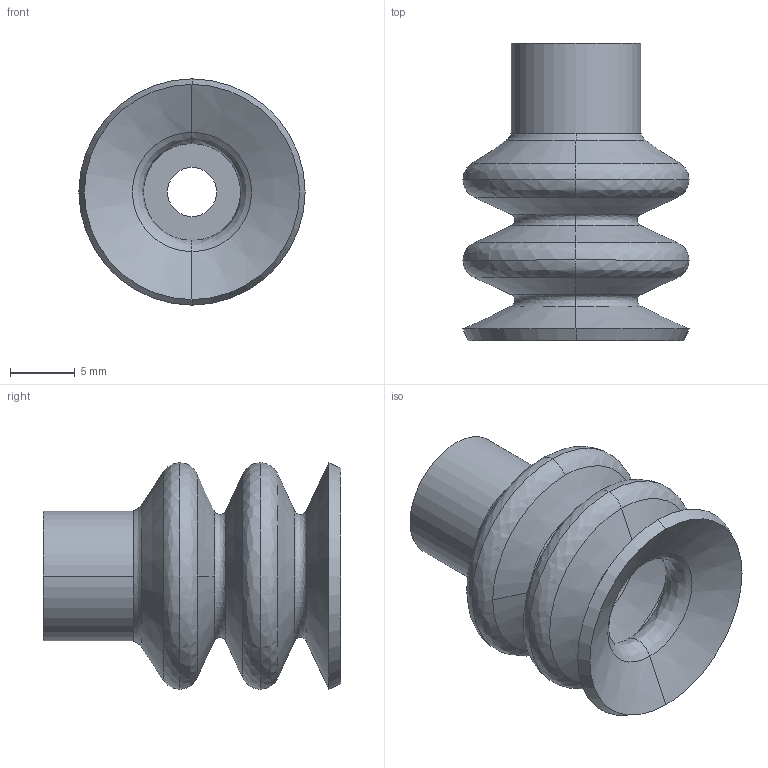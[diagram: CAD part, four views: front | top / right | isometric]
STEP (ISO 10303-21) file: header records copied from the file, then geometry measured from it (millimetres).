
FILE_DESCRIPTION (( 'STEP AP214' ), '1' );
FILE_NAME ('FG-18.STEP', '2023-03-07T06:41:39', ( 'Windows User' ), ( 'P R C' ), 'SwSTEP 2.0', 'SolidWorks 2019', '' );
FILE_SCHEMA (( 'AUTOMOTIVE_DESIGN' ));
Length unit declared in the file: millimetre
Products named in the file (1): FG-18
Bounding box: 17.5 x 23 x 17.5 mm (x, y, z)
Volume: 1674.5 mm3; surface area: 2559.5 mm2
Topology: 1 solids, 1 shells, 55 faces, 118 edges, 66 vertices
Faces by surface type: bspline 26, cone 22, cylinder 4, plane 3
Entity records: 1796 total; most frequent: CARTESIAN_POINT 714, ORIENTED_EDGE 236, DIRECTION 214, EDGE_CURVE 118, AXIS2_PLACEMENT_3D 94, VERTEX_POINT 66, CIRCLE 64, EDGE_LOOP 58
